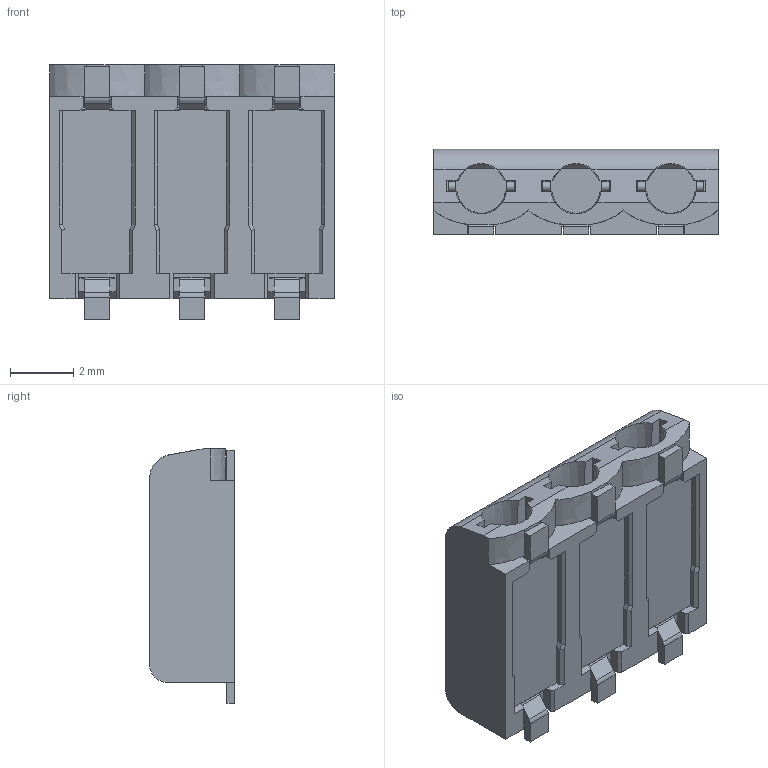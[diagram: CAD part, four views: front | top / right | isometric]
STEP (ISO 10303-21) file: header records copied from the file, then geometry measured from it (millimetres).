
FILE_DESCRIPTION((''),'2;1');
FILE_NAME('PRT0001','2015-12-18T',('exploitation03'),(''),'PRO/ENGINEER BY PARAMETRIC TECHNOLOGY CORPORATION, 2009440','PRO/ENGINEER BY PARAMETRIC TECHNOLOGY CORPORATION, 2009440','');
FILE_SCHEMA(('CONFIG_CONTROL_DESIGN'));
Length unit declared in the file: millimetre
Products named in the file (1): PRT0001
Bounding box: 9 x 2.7 x 8.05 mm (x, y, z)
Volume: 152.2 mm3; surface area: 280.6 mm2
Topology: 1 solids, 1 shells, 358 faces, 1029 edges, 670 vertices
Faces by surface type: plane 308, cylinder 38, extrusion 6, cone 6
Entity records: 11814 total; most frequent: CARTESIAN_POINT 2432, ORIENTED_EDGE 2058, DIRECTION 1779, EDGE_CURVE 1029, VECTOR 875, LINE 869, VERTEX_POINT 670, AXIS2_PLACEMENT_3D 452
